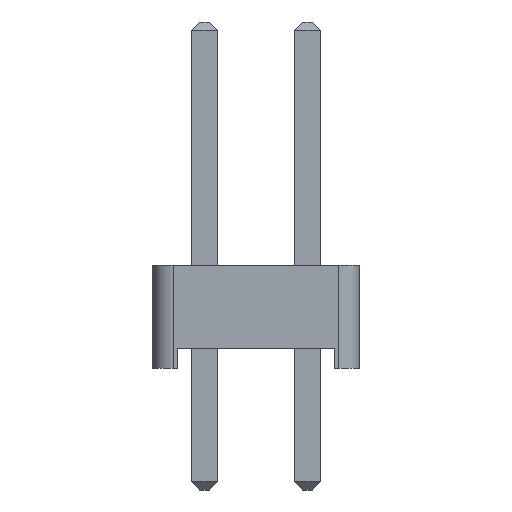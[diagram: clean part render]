
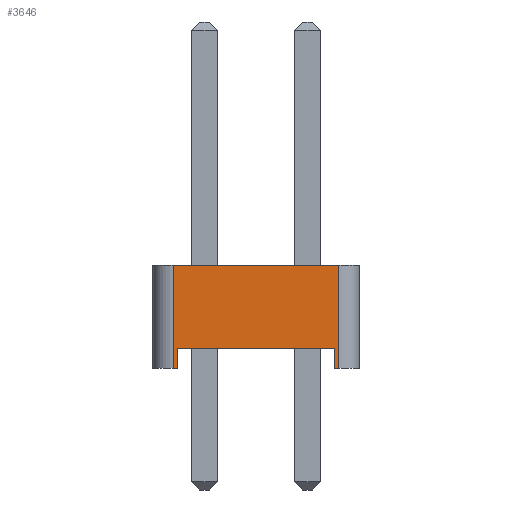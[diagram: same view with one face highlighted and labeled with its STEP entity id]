
A CAD part, left-side view. The second image highlights one B-rep face of the part: STEP entity #3646.
In plain terms, the highlighted planar face has unit normal (-1, 0, 0).
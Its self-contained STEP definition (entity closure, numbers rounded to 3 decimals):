
#3386 = VERTEX_POINT('',#3387);
#3387 = CARTESIAN_POINT('',(-1.27,2.04,0.));
#3395 = PLANE('',#3396);
#3396 = AXIS2_PLACEMENT_3D('',#3397,#3398,#3399);
#3397 = CARTESIAN_POINT('',(0.,0.,0.));
#3398 = DIRECTION('',(-0.,-0.,-1.));
#3399 = DIRECTION('',(-1.,0.,0.));
#3411 = CYLINDRICAL_SURFACE('',#3412,0.5);
#3412 = AXIS2_PLACEMENT_3D('',#3413,#3414,#3415);
#3413 = CARTESIAN_POINT('',(-0.77,2.04,0.));
#3414 = DIRECTION('',(0.,0.,1.));
#3415 = DIRECTION('',(0.,1.,0.));
#3513 = VERTEX_POINT('',#3514);
#3514 = CARTESIAN_POINT('',(-1.27,1.94,0.));
#3528 = PLANE('',#3529);
#3529 = AXIS2_PLACEMENT_3D('',#3530,#3531,#3532);
#3530 = CARTESIAN_POINT('',(1.27,1.94,0.));
#3531 = DIRECTION('',(0.,-1.,0.));
#3532 = DIRECTION('',(-1.,0.,0.));
#3540 = EDGE_CURVE('',#3513,#3386,#3541,.T.);
#3541 = SURFACE_CURVE('',#3542,(#3546,#3553),.PCURVE_S1.);
#3542 = LINE('',#3543,#3544);
#3543 = CARTESIAN_POINT('',(-1.27,-2.54,0.));
#3544 = VECTOR('',#3545,1.);
#3545 = DIRECTION('',(0.,1.,0.));
#3546 = PCURVE('',#3395,#3547);
#3547 = DEFINITIONAL_REPRESENTATION('',(#3548),#3552);
#3548 = LINE('',#3549,#3550);
#3549 = CARTESIAN_POINT('',(1.27,-2.54));
#3550 = VECTOR('',#3551,1.);
#3551 = DIRECTION('',(0.,1.));
#3552 = ( GEOMETRIC_REPRESENTATION_CONTEXT(2) 
PARAMETRIC_REPRESENTATION_CONTEXT() REPRESENTATION_CONTEXT('2D SPACE',''
  ) );
#3553 = PCURVE('',#3554,#3559);
#3554 = PLANE('',#3555);
#3555 = AXIS2_PLACEMENT_3D('',#3556,#3557,#3558);
#3556 = CARTESIAN_POINT('',(-1.27,-2.54,0.));
#3557 = DIRECTION('',(-1.,0.,0.));
#3558 = DIRECTION('',(0.,1.,0.));
#3559 = DEFINITIONAL_REPRESENTATION('',(#3560),#3564);
#3560 = LINE('',#3561,#3562);
#3561 = CARTESIAN_POINT('',(0.,0.));
#3562 = VECTOR('',#3563,1.);
#3563 = DIRECTION('',(1.,0.));
#3564 = ( GEOMETRIC_REPRESENTATION_CONTEXT(2) 
PARAMETRIC_REPRESENTATION_CONTEXT() REPRESENTATION_CONTEXT('2D SPACE',''
  ) );
#3570 = EDGE_CURVE('',#3386,#3571,#3573,.T.);
#3571 = VERTEX_POINT('',#3572);
#3572 = CARTESIAN_POINT('',(-1.27,2.04,2.54));
#3573 = SURFACE_CURVE('',#3574,(#3578,#3585),.PCURVE_S1.);
#3574 = LINE('',#3575,#3576);
#3575 = CARTESIAN_POINT('',(-1.27,2.04,0.));
#3576 = VECTOR('',#3577,1.);
#3577 = DIRECTION('',(0.,0.,1.));
#3578 = PCURVE('',#3411,#3579);
#3579 = DEFINITIONAL_REPRESENTATION('',(#3580),#3584);
#3580 = LINE('',#3581,#3582);
#3581 = CARTESIAN_POINT('',(1.571,0.));
#3582 = VECTOR('',#3583,1.);
#3583 = DIRECTION('',(0.,1.));
#3584 = ( GEOMETRIC_REPRESENTATION_CONTEXT(2) 
PARAMETRIC_REPRESENTATION_CONTEXT() REPRESENTATION_CONTEXT('2D SPACE',''
  ) );
#3585 = PCURVE('',#3554,#3586);
#3586 = DEFINITIONAL_REPRESENTATION('',(#3587),#3591);
#3587 = LINE('',#3588,#3589);
#3588 = CARTESIAN_POINT('',(4.58,0.));
#3589 = VECTOR('',#3590,1.);
#3590 = DIRECTION('',(0.,-1.));
#3591 = ( GEOMETRIC_REPRESENTATION_CONTEXT(2) 
PARAMETRIC_REPRESENTATION_CONTEXT() REPRESENTATION_CONTEXT('2D SPACE',''
  ) );
#3610 = PLANE('',#3611);
#3611 = AXIS2_PLACEMENT_3D('',#3612,#3613,#3614);
#3612 = CARTESIAN_POINT('',(0.,0.,2.54));
#3613 = DIRECTION('',(-0.,-0.,-1.));
#3614 = DIRECTION('',(-1.,0.,0.));
#3646 = ADVANCED_FACE('',(#3647),#3554,.T.);
#3647 = FACE_BOUND('',#3648,.T.);
#3648 = EDGE_LOOP('',(#3649,#3679,#3707,#3728,#3729,#3730,#3753,#3781));
#3649 = ORIENTED_EDGE('',*,*,#3650,.F.);
#3650 = EDGE_CURVE('',#3651,#3653,#3655,.T.);
#3651 = VERTEX_POINT('',#3652);
#3652 = CARTESIAN_POINT('',(-1.27,-2.04,0.));
#3653 = VERTEX_POINT('',#3654);
#3654 = CARTESIAN_POINT('',(-1.27,-1.94,0.));
#3655 = SURFACE_CURVE('',#3656,(#3660,#3667),.PCURVE_S1.);
#3656 = LINE('',#3657,#3658);
#3657 = CARTESIAN_POINT('',(-1.27,-2.54,0.));
#3658 = VECTOR('',#3659,1.);
#3659 = DIRECTION('',(0.,1.,0.));
#3660 = PCURVE('',#3554,#3661);
#3661 = DEFINITIONAL_REPRESENTATION('',(#3662),#3666);
#3662 = LINE('',#3663,#3664);
#3663 = CARTESIAN_POINT('',(0.,0.));
#3664 = VECTOR('',#3665,1.);
#3665 = DIRECTION('',(1.,0.));
#3666 = ( GEOMETRIC_REPRESENTATION_CONTEXT(2) 
PARAMETRIC_REPRESENTATION_CONTEXT() REPRESENTATION_CONTEXT('2D SPACE',''
  ) );
#3667 = PCURVE('',#3668,#3673);
#3668 = PLANE('',#3669);
#3669 = AXIS2_PLACEMENT_3D('',#3670,#3671,#3672);
#3670 = CARTESIAN_POINT('',(0.,0.,0.));
#3671 = DIRECTION('',(-0.,-0.,-1.));
#3672 = DIRECTION('',(-1.,0.,0.));
#3673 = DEFINITIONAL_REPRESENTATION('',(#3674),#3678);
#3674 = LINE('',#3675,#3676);
#3675 = CARTESIAN_POINT('',(1.27,-2.54));
#3676 = VECTOR('',#3677,1.);
#3677 = DIRECTION('',(0.,1.));
#3678 = ( GEOMETRIC_REPRESENTATION_CONTEXT(2) 
PARAMETRIC_REPRESENTATION_CONTEXT() REPRESENTATION_CONTEXT('2D SPACE',''
  ) );
#3679 = ORIENTED_EDGE('',*,*,#3680,.T.);
#3680 = EDGE_CURVE('',#3651,#3681,#3683,.T.);
#3681 = VERTEX_POINT('',#3682);
#3682 = CARTESIAN_POINT('',(-1.27,-2.04,2.54));
#3683 = SURFACE_CURVE('',#3684,(#3688,#3695),.PCURVE_S1.);
#3684 = LINE('',#3685,#3686);
#3685 = CARTESIAN_POINT('',(-1.27,-2.04,0.));
#3686 = VECTOR('',#3687,1.);
#3687 = DIRECTION('',(0.,0.,1.));
#3688 = PCURVE('',#3554,#3689);
#3689 = DEFINITIONAL_REPRESENTATION('',(#3690),#3694);
#3690 = LINE('',#3691,#3692);
#3691 = CARTESIAN_POINT('',(0.5,0.));
#3692 = VECTOR('',#3693,1.);
#3693 = DIRECTION('',(0.,-1.));
#3694 = ( GEOMETRIC_REPRESENTATION_CONTEXT(2) 
PARAMETRIC_REPRESENTATION_CONTEXT() REPRESENTATION_CONTEXT('2D SPACE',''
  ) );
#3695 = PCURVE('',#3696,#3701);
#3696 = CYLINDRICAL_SURFACE('',#3697,0.5);
#3697 = AXIS2_PLACEMENT_3D('',#3698,#3699,#3700);
#3698 = CARTESIAN_POINT('',(-0.77,-2.04,0.));
#3699 = DIRECTION('',(0.,0.,1.));
#3700 = DIRECTION('',(0.,-1.,0.));
#3701 = DEFINITIONAL_REPRESENTATION('',(#3702),#3706);
#3702 = LINE('',#3703,#3704);
#3703 = CARTESIAN_POINT('',(-1.571,0.));
#3704 = VECTOR('',#3705,1.);
#3705 = DIRECTION('',(-0.,1.));
#3706 = ( GEOMETRIC_REPRESENTATION_CONTEXT(2) 
PARAMETRIC_REPRESENTATION_CONTEXT() REPRESENTATION_CONTEXT('2D SPACE',''
  ) );
#3707 = ORIENTED_EDGE('',*,*,#3708,.T.);
#3708 = EDGE_CURVE('',#3681,#3571,#3709,.T.);
#3709 = SURFACE_CURVE('',#3710,(#3714,#3721),.PCURVE_S1.);
#3710 = LINE('',#3711,#3712);
#3711 = CARTESIAN_POINT('',(-1.27,-2.54,2.54));
#3712 = VECTOR('',#3713,1.);
#3713 = DIRECTION('',(0.,1.,0.));
#3714 = PCURVE('',#3554,#3715);
#3715 = DEFINITIONAL_REPRESENTATION('',(#3716),#3720);
#3716 = LINE('',#3717,#3718);
#3717 = CARTESIAN_POINT('',(0.,-2.54));
#3718 = VECTOR('',#3719,1.);
#3719 = DIRECTION('',(1.,0.));
#3720 = ( GEOMETRIC_REPRESENTATION_CONTEXT(2) 
PARAMETRIC_REPRESENTATION_CONTEXT() REPRESENTATION_CONTEXT('2D SPACE',''
  ) );
#3721 = PCURVE('',#3610,#3722);
#3722 = DEFINITIONAL_REPRESENTATION('',(#3723),#3727);
#3723 = LINE('',#3724,#3725);
#3724 = CARTESIAN_POINT('',(1.27,-2.54));
#3725 = VECTOR('',#3726,1.);
#3726 = DIRECTION('',(0.,1.));
#3727 = ( GEOMETRIC_REPRESENTATION_CONTEXT(2) 
PARAMETRIC_REPRESENTATION_CONTEXT() REPRESENTATION_CONTEXT('2D SPACE',''
  ) );
#3728 = ORIENTED_EDGE('',*,*,#3570,.F.);
#3729 = ORIENTED_EDGE('',*,*,#3540,.F.);
#3730 = ORIENTED_EDGE('',*,*,#3731,.T.);
#3731 = EDGE_CURVE('',#3513,#3732,#3734,.T.);
#3732 = VERTEX_POINT('',#3733);
#3733 = CARTESIAN_POINT('',(-1.27,1.94,0.5));
#3734 = SURFACE_CURVE('',#3735,(#3739,#3746),.PCURVE_S1.);
#3735 = LINE('',#3736,#3737);
#3736 = CARTESIAN_POINT('',(-1.27,1.94,0.));
#3737 = VECTOR('',#3738,1.);
#3738 = DIRECTION('',(0.,0.,1.));
#3739 = PCURVE('',#3554,#3740);
#3740 = DEFINITIONAL_REPRESENTATION('',(#3741),#3745);
#3741 = LINE('',#3742,#3743);
#3742 = CARTESIAN_POINT('',(4.48,0.));
#3743 = VECTOR('',#3744,1.);
#3744 = DIRECTION('',(0.,-1.));
#3745 = ( GEOMETRIC_REPRESENTATION_CONTEXT(2) 
PARAMETRIC_REPRESENTATION_CONTEXT() REPRESENTATION_CONTEXT('2D SPACE',''
  ) );
#3746 = PCURVE('',#3528,#3747);
#3747 = DEFINITIONAL_REPRESENTATION('',(#3748),#3752);
#3748 = LINE('',#3749,#3750);
#3749 = CARTESIAN_POINT('',(2.54,0.));
#3750 = VECTOR('',#3751,1.);
#3751 = DIRECTION('',(0.,-1.));
#3752 = ( GEOMETRIC_REPRESENTATION_CONTEXT(2) 
PARAMETRIC_REPRESENTATION_CONTEXT() REPRESENTATION_CONTEXT('2D SPACE',''
  ) );
#3753 = ORIENTED_EDGE('',*,*,#3754,.T.);
#3754 = EDGE_CURVE('',#3732,#3755,#3757,.T.);
#3755 = VERTEX_POINT('',#3756);
#3756 = CARTESIAN_POINT('',(-1.27,-1.94,0.5));
#3757 = SURFACE_CURVE('',#3758,(#3762,#3769),.PCURVE_S1.);
#3758 = LINE('',#3759,#3760);
#3759 = CARTESIAN_POINT('',(-1.27,1.94,0.5));
#3760 = VECTOR('',#3761,1.);
#3761 = DIRECTION('',(0.,-1.,0.));
#3762 = PCURVE('',#3554,#3763);
#3763 = DEFINITIONAL_REPRESENTATION('',(#3764),#3768);
#3764 = LINE('',#3765,#3766);
#3765 = CARTESIAN_POINT('',(4.48,-0.5));
#3766 = VECTOR('',#3767,1.);
#3767 = DIRECTION('',(-1.,0.));
#3768 = ( GEOMETRIC_REPRESENTATION_CONTEXT(2) 
PARAMETRIC_REPRESENTATION_CONTEXT() REPRESENTATION_CONTEXT('2D SPACE',''
  ) );
#3769 = PCURVE('',#3770,#3775);
#3770 = PLANE('',#3771);
#3771 = AXIS2_PLACEMENT_3D('',#3772,#3773,#3774);
#3772 = CARTESIAN_POINT('',(0.,0.,0.5));
#3773 = DIRECTION('',(0.,0.,1.));
#3774 = DIRECTION('',(1.,0.,0.));
#3775 = DEFINITIONAL_REPRESENTATION('',(#3776),#3780);
#3776 = LINE('',#3777,#3778);
#3777 = CARTESIAN_POINT('',(-1.27,1.94));
#3778 = VECTOR('',#3779,1.);
#3779 = DIRECTION('',(0.,-1.));
#3780 = ( GEOMETRIC_REPRESENTATION_CONTEXT(2) 
PARAMETRIC_REPRESENTATION_CONTEXT() REPRESENTATION_CONTEXT('2D SPACE',''
  ) );
#3781 = ORIENTED_EDGE('',*,*,#3782,.F.);
#3782 = EDGE_CURVE('',#3653,#3755,#3783,.T.);
#3783 = SURFACE_CURVE('',#3784,(#3788,#3795),.PCURVE_S1.);
#3784 = LINE('',#3785,#3786);
#3785 = CARTESIAN_POINT('',(-1.27,-1.94,0.));
#3786 = VECTOR('',#3787,1.);
#3787 = DIRECTION('',(0.,0.,1.));
#3788 = PCURVE('',#3554,#3789);
#3789 = DEFINITIONAL_REPRESENTATION('',(#3790),#3794);
#3790 = LINE('',#3791,#3792);
#3791 = CARTESIAN_POINT('',(0.6,0.));
#3792 = VECTOR('',#3793,1.);
#3793 = DIRECTION('',(0.,-1.));
#3794 = ( GEOMETRIC_REPRESENTATION_CONTEXT(2) 
PARAMETRIC_REPRESENTATION_CONTEXT() REPRESENTATION_CONTEXT('2D SPACE',''
  ) );
#3795 = PCURVE('',#3796,#3801);
#3796 = PLANE('',#3797);
#3797 = AXIS2_PLACEMENT_3D('',#3798,#3799,#3800);
#3798 = CARTESIAN_POINT('',(-1.27,-1.94,0.));
#3799 = DIRECTION('',(0.,1.,0.));
#3800 = DIRECTION('',(1.,0.,0.));
#3801 = DEFINITIONAL_REPRESENTATION('',(#3802),#3806);
#3802 = LINE('',#3803,#3804);
#3803 = CARTESIAN_POINT('',(0.,0.));
#3804 = VECTOR('',#3805,1.);
#3805 = DIRECTION('',(0.,-1.));
#3806 = ( GEOMETRIC_REPRESENTATION_CONTEXT(2) 
PARAMETRIC_REPRESENTATION_CONTEXT() REPRESENTATION_CONTEXT('2D SPACE',''
  ) );
